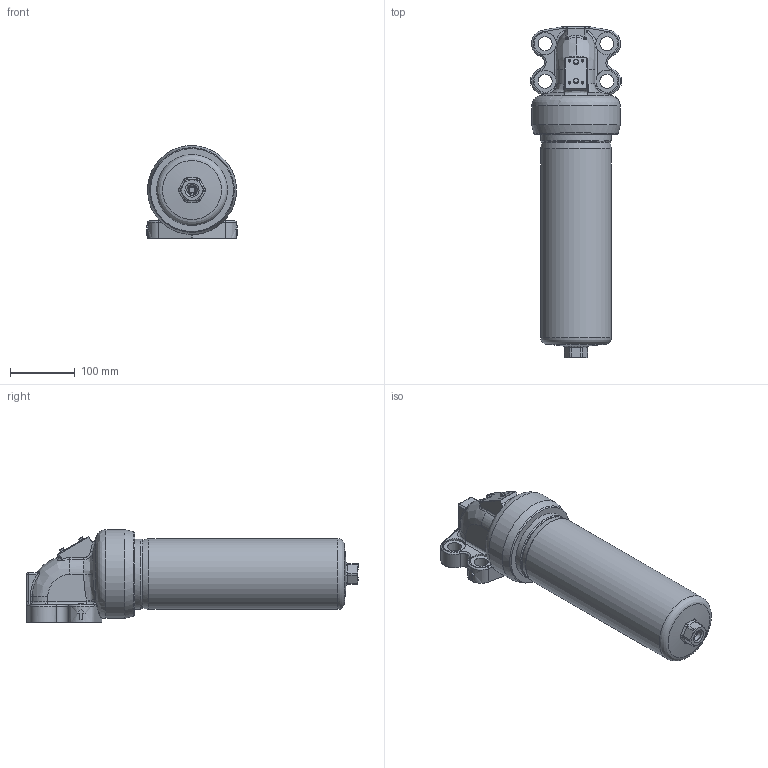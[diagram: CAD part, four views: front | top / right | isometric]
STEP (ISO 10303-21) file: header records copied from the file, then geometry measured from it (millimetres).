
FILE_DESCRIPTION((''),'2;1');
FILE_NAME('U:\Users\i.maeder\14985100-HD614.stp', '2013-08-06T14:29:37',('User'),('SDRC'),'I-DEAS Master Series 9','UNIX', 'Yes');
FILE_SCHEMA(('AUTOMOTIVE_DESIGN { 1 0 10303 214 1 1 1 1 }'));
Length unit declared in the file: millimetre
Products named in the file (1): 14985100(236869)
Bounding box: 140 x 511.1 x 142.99 mm (x, y, z)
Volume: 4619744 mm3; surface area: 219337.6 mm2
Topology: 1 solids, 5 shells, 318 faces, 720 edges, 428 vertices
Faces by surface type: bspline 318
Entity records: 12213 total; most frequent: CARTESIAN_POINT 8073, ORIENTED_EDGE 1406, EDGE_CURVE 703, VERTEX_POINT 427, EDGE_LOOP 362, FACE_OUTER_BOUND 318, ADVANCED_FACE 318, B_SPLINE_CURVE_WITH_KNOTS 297
